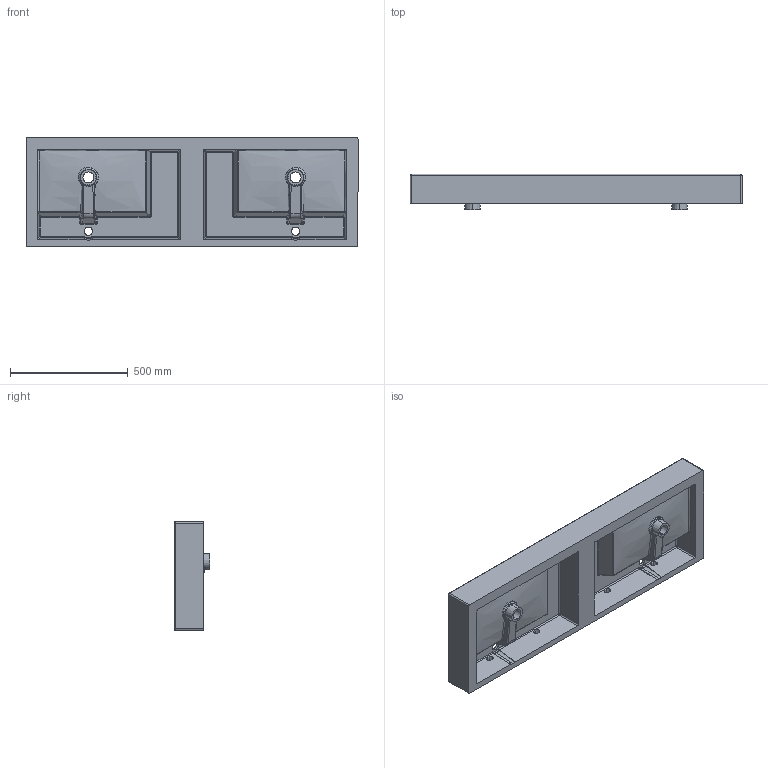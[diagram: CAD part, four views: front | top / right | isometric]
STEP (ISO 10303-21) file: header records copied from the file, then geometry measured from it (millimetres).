
FILE_DESCRIPTION (( 'STEP AP203' ), '1' );
FILE_NAME ('TWENTY140DV.STEP', '2019-04-11T14:33:07', ( '' ), ( '' ), 'SwSTEP 2.0', 'SolidWorks 2017', '' );
FILE_SCHEMA (( 'CONFIG_CONTROL_DESIGN' ));
Length unit declared in the file: millimetre
Products named in the file (1): TWENTY140DV
Bounding box: 1410 x 150 x 460 mm (x, y, z)
Volume: 25123808 mm3; surface area: 2344221.8 mm2
Topology: 1 solids, 1 shells, 320 faces, 765 edges, 434 vertices
Faces by surface type: cylinder 107, bspline 104, plane 55, sphere 38, cone 8, torus 8
Entity records: 21326 total; most frequent: CARTESIAN_POINT 14786, ORIENTED_EDGE 1486, DIRECTION 1195, EDGE_CURVE 743, AXIS2_PLACEMENT_3D 479, VERTEX_POINT 430, EDGE_LOOP 341, ADVANCED_FACE 320
